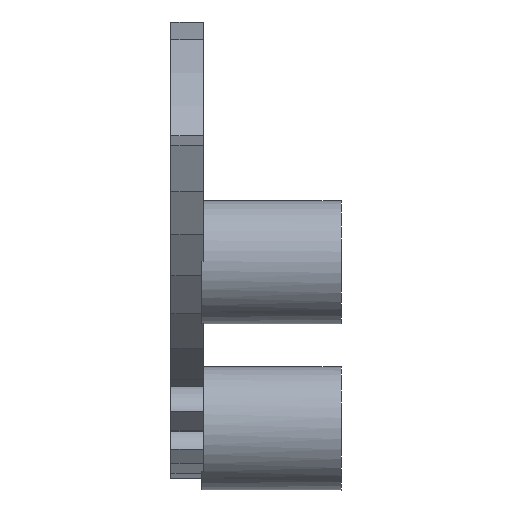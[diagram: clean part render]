
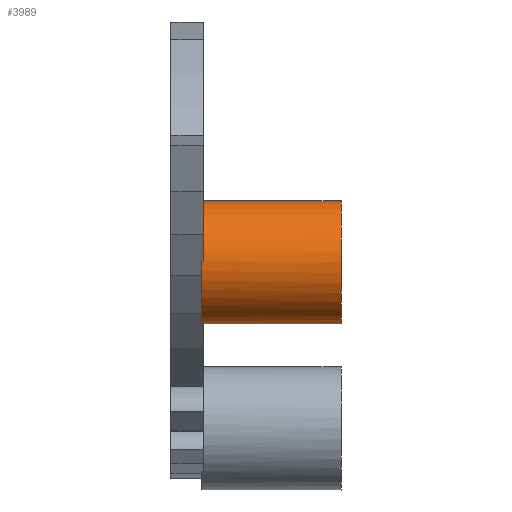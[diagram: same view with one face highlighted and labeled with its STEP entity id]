
A CAD part, front view. The second image highlights one B-rep face of the part: STEP entity #3989.
In plain terms, the highlighted cylindrical face has radius 3.8 mm (diameter 7.6 mm), a full revolution.
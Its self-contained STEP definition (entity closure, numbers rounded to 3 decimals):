
#100 = PLANE('',#101);
#101 = AXIS2_PLACEMENT_3D('',#102,#103,#104);
#102 = CARTESIAN_POINT('',(54.,-59.387,-74.279));
#103 = DIRECTION('',(1.,0.,0.));
#104 = DIRECTION('',(-0.,0.,1.));
#315 = PLANE('',#316);
#316 = AXIS2_PLACEMENT_3D('',#317,#318,#319);
#317 = CARTESIAN_POINT('',(52.,-77.03,-70.876));
#318 = DIRECTION('',(-0.,0.822,0.57));
#319 = DIRECTION('',(0.,0.57,-0.822));
#371 = PLANE('',#372);
#372 = AXIS2_PLACEMENT_3D('',#373,#374,#375);
#373 = CARTESIAN_POINT('',(52.,-73.296,-75.742));
#374 = DIRECTION('',(-0.,0.698,0.716));
#375 = DIRECTION('',(0.,0.716,-0.698));
#1612 = VERTEX_POINT('',#1613);
#1613 = CARTESIAN_POINT('',(54.,-75.907,-72.494));
#1634 = EDGE_CURVE('',#1635,#1612,#1637,.T.);
#1635 = VERTEX_POINT('',#1636);
#1636 = CARTESIAN_POINT('',(54.,-72.108,-68.759));
#1637 = SURFACE_CURVE('',#1638,(#1643,#1650),.PCURVE_S1.);
#1638 = CIRCLE('',#1639,3.8);
#1639 = AXIS2_PLACEMENT_3D('',#1640,#1641,#1642);
#1640 = CARTESIAN_POINT('',(54.,-72.108,-72.559));
#1641 = DIRECTION('',(1.,0.,0.));
#1642 = DIRECTION('',(-0.,0.,1.));
#1643 = PCURVE('',#100,#1644);
#1644 = DEFINITIONAL_REPRESENTATION('',(#1645),#1649);
#1645 = CIRCLE('',#1646,3.8);
#1646 = AXIS2_PLACEMENT_2D('',#1647,#1648);
#1647 = CARTESIAN_POINT('',(1.72,12.721));
#1648 = DIRECTION('',(1.,0.));
#1649 = ( GEOMETRIC_REPRESENTATION_CONTEXT(2) 
PARAMETRIC_REPRESENTATION_CONTEXT() REPRESENTATION_CONTEXT('2D SPACE',''
  ) );
#1650 = PCURVE('',#1651,#1656);
#1651 = CYLINDRICAL_SURFACE('',#1652,3.8);
#1652 = AXIS2_PLACEMENT_3D('',#1653,#1654,#1655);
#1653 = CARTESIAN_POINT('',(53.9,-72.108,-72.559));
#1654 = DIRECTION('',(1.,0.,0.));
#1655 = DIRECTION('',(-0.,0.,1.));
#1656 = DEFINITIONAL_REPRESENTATION('',(#1657),#1661);
#1657 = LINE('',#1658,#1659);
#1658 = CARTESIAN_POINT('',(0.,0.1));
#1659 = VECTOR('',#1660,1.);
#1660 = DIRECTION('',(1.,0.));
#1661 = ( GEOMETRIC_REPRESENTATION_CONTEXT(2) 
PARAMETRIC_REPRESENTATION_CONTEXT() REPRESENTATION_CONTEXT('2D SPACE',''
  ) );
#1663 = EDGE_CURVE('',#1664,#1635,#1666,.T.);
#1664 = VERTEX_POINT('',#1665);
#1665 = CARTESIAN_POINT('',(54.,-72.712,-76.311));
#1666 = SURFACE_CURVE('',#1667,(#1672,#1679),.PCURVE_S1.);
#1667 = CIRCLE('',#1668,3.8);
#1668 = AXIS2_PLACEMENT_3D('',#1669,#1670,#1671);
#1669 = CARTESIAN_POINT('',(54.,-72.108,-72.559));
#1670 = DIRECTION('',(1.,0.,0.));
#1671 = DIRECTION('',(-0.,0.,1.));
#1672 = PCURVE('',#100,#1673);
#1673 = DEFINITIONAL_REPRESENTATION('',(#1674),#1678);
#1674 = CIRCLE('',#1675,3.8);
#1675 = AXIS2_PLACEMENT_2D('',#1676,#1677);
#1676 = CARTESIAN_POINT('',(1.72,12.721));
#1677 = DIRECTION('',(1.,0.));
#1678 = ( GEOMETRIC_REPRESENTATION_CONTEXT(2) 
PARAMETRIC_REPRESENTATION_CONTEXT() REPRESENTATION_CONTEXT('2D SPACE',''
  ) );
#1679 = PCURVE('',#1651,#1680);
#1680 = DEFINITIONAL_REPRESENTATION('',(#1681),#1685);
#1681 = LINE('',#1682,#1683);
#1682 = CARTESIAN_POINT('',(0.,0.1));
#1683 = VECTOR('',#1684,1.);
#1684 = DIRECTION('',(1.,0.));
#1685 = ( GEOMETRIC_REPRESENTATION_CONTEXT(2) 
PARAMETRIC_REPRESENTATION_CONTEXT() REPRESENTATION_CONTEXT('2D SPACE',''
  ) );
#2677 = EDGE_CURVE('',#2678,#1612,#2680,.T.);
#2678 = VERTEX_POINT('',#2679);
#2679 = CARTESIAN_POINT('',(53.9,-75.907,-72.494));
#2680 = SURFACE_CURVE('',#2681,(#2685,#2691),.PCURVE_S1.);
#2681 = LINE('',#2682,#2683);
#2682 = CARTESIAN_POINT('',(53.9,-75.907,-72.494));
#2683 = VECTOR('',#2684,1.);
#2684 = DIRECTION('',(1.,0.,0.));
#2685 = PCURVE('',#315,#2686);
#2686 = DEFINITIONAL_REPRESENTATION('',(#2687),#2690);
#2687 = B_SPLINE_CURVE_WITH_KNOTS('',1,(#2688,#2689),.UNSPECIFIED.,.F.,
  .F.,(2,2),(0.,0.3),.PIECEWISE_BEZIER_KNOTS.);
#2688 = CARTESIAN_POINT('',(1.97,-1.9));
#2689 = CARTESIAN_POINT('',(1.97,-2.2));
#2690 = ( GEOMETRIC_REPRESENTATION_CONTEXT(2) 
PARAMETRIC_REPRESENTATION_CONTEXT() REPRESENTATION_CONTEXT('2D SPACE',''
  ) );
#2691 = PCURVE('',#1651,#2692);
#2692 = DEFINITIONAL_REPRESENTATION('',(#2693),#2696);
#2693 = B_SPLINE_CURVE_WITH_KNOTS('',1,(#2694,#2695),.UNSPECIFIED.,.F.,
  .F.,(2,2),(0.,0.3),.PIECEWISE_BEZIER_KNOTS.);
#2694 = CARTESIAN_POINT('',(1.554,0.));
#2695 = CARTESIAN_POINT('',(1.554,0.3));
#2696 = ( GEOMETRIC_REPRESENTATION_CONTEXT(2) 
PARAMETRIC_REPRESENTATION_CONTEXT() REPRESENTATION_CONTEXT('2D SPACE',''
  ) );
#2713 = PLANE('',#2714);
#2714 = AXIS2_PLACEMENT_3D('',#2715,#2716,#2717);
#2715 = CARTESIAN_POINT('',(53.9,-72.108,-72.559));
#2716 = DIRECTION('',(1.,0.,0.));
#2717 = DIRECTION('',(-0.,0.,1.));
#2798 = VERTEX_POINT('',#2799);
#2799 = CARTESIAN_POINT('',(53.9,-72.712,-76.311));
#2818 = EDGE_CURVE('',#2798,#1664,#2819,.T.);
#2819 = SURFACE_CURVE('',#2820,(#2824,#2830),.PCURVE_S1.);
#2820 = LINE('',#2821,#2822);
#2821 = CARTESIAN_POINT('',(53.9,-72.712,-76.311));
#2822 = VECTOR('',#2823,1.);
#2823 = DIRECTION('',(1.,0.,0.));
#2824 = PCURVE('',#371,#2825);
#2825 = DEFINITIONAL_REPRESENTATION('',(#2826),#2829);
#2826 = B_SPLINE_CURVE_WITH_KNOTS('',1,(#2827,#2828),.UNSPECIFIED.,.F.,
  .F.,(2,2),(0.,0.3),.PIECEWISE_BEZIER_KNOTS.);
#2827 = CARTESIAN_POINT('',(0.815,-1.9));
#2828 = CARTESIAN_POINT('',(0.815,-2.2));
#2829 = ( GEOMETRIC_REPRESENTATION_CONTEXT(2) 
PARAMETRIC_REPRESENTATION_CONTEXT() REPRESENTATION_CONTEXT('2D SPACE',''
  ) );
#2830 = PCURVE('',#1651,#2831);
#2831 = DEFINITIONAL_REPRESENTATION('',(#2832),#2835);
#2832 = B_SPLINE_CURVE_WITH_KNOTS('',1,(#2833,#2834),.UNSPECIFIED.,.F.,
  .F.,(2,2),(0.,0.3),.PIECEWISE_BEZIER_KNOTS.);
#2833 = CARTESIAN_POINT('',(2.982,0.));
#2834 = CARTESIAN_POINT('',(2.982,0.3));
#2835 = ( GEOMETRIC_REPRESENTATION_CONTEXT(2) 
PARAMETRIC_REPRESENTATION_CONTEXT() REPRESENTATION_CONTEXT('2D SPACE',''
  ) );
#3989 = ADVANCED_FACE('',(#3990),#1651,.T.);
#3990 = FACE_BOUND('',#3991,.T.);
#3991 = EDGE_LOOP('',(#3992,#4015,#4042,#4043,#4044,#4045,#4067,#4068));
#3992 = ORIENTED_EDGE('',*,*,#3993,.T.);
#3993 = EDGE_CURVE('',#1635,#3994,#3996,.T.);
#3994 = VERTEX_POINT('',#3995);
#3995 = CARTESIAN_POINT('',(62.5,-72.108,-68.759));
#3996 = SEAM_CURVE('',#3997,(#4001,#4008),.PCURVE_S1.);
#3997 = LINE('',#3998,#3999);
#3998 = CARTESIAN_POINT('',(53.9,-72.108,-68.759));
#3999 = VECTOR('',#4000,1.);
#4000 = DIRECTION('',(1.,0.,0.));
#4001 = PCURVE('',#1651,#4002);
#4002 = DEFINITIONAL_REPRESENTATION('',(#4003),#4007);
#4003 = LINE('',#4004,#4005);
#4004 = CARTESIAN_POINT('',(6.283,-0.));
#4005 = VECTOR('',#4006,1.);
#4006 = DIRECTION('',(0.,1.));
#4007 = ( GEOMETRIC_REPRESENTATION_CONTEXT(2) 
PARAMETRIC_REPRESENTATION_CONTEXT() REPRESENTATION_CONTEXT('2D SPACE',''
  ) );
#4008 = PCURVE('',#1651,#4009);
#4009 = DEFINITIONAL_REPRESENTATION('',(#4010),#4014);
#4010 = LINE('',#4011,#4012);
#4011 = CARTESIAN_POINT('',(0.,-0.));
#4012 = VECTOR('',#4013,1.);
#4013 = DIRECTION('',(0.,1.));
#4014 = ( GEOMETRIC_REPRESENTATION_CONTEXT(2) 
PARAMETRIC_REPRESENTATION_CONTEXT() REPRESENTATION_CONTEXT('2D SPACE',''
  ) );
#4015 = ORIENTED_EDGE('',*,*,#4016,.F.);
#4016 = EDGE_CURVE('',#3994,#3994,#4017,.T.);
#4017 = SURFACE_CURVE('',#4018,(#4023,#4030),.PCURVE_S1.);
#4018 = CIRCLE('',#4019,3.8);
#4019 = AXIS2_PLACEMENT_3D('',#4020,#4021,#4022);
#4020 = CARTESIAN_POINT('',(62.5,-72.108,-72.559));
#4021 = DIRECTION('',(1.,0.,0.));
#4022 = DIRECTION('',(-0.,0.,1.));
#4023 = PCURVE('',#1651,#4024);
#4024 = DEFINITIONAL_REPRESENTATION('',(#4025),#4029);
#4025 = LINE('',#4026,#4027);
#4026 = CARTESIAN_POINT('',(0.,8.6));
#4027 = VECTOR('',#4028,1.);
#4028 = DIRECTION('',(1.,0.));
#4029 = ( GEOMETRIC_REPRESENTATION_CONTEXT(2) 
PARAMETRIC_REPRESENTATION_CONTEXT() REPRESENTATION_CONTEXT('2D SPACE',''
  ) );
#4030 = PCURVE('',#4031,#4036);
#4031 = PLANE('',#4032);
#4032 = AXIS2_PLACEMENT_3D('',#4033,#4034,#4035);
#4033 = CARTESIAN_POINT('',(62.5,-72.108,-72.559));
#4034 = DIRECTION('',(1.,0.,0.));
#4035 = DIRECTION('',(-0.,0.,1.));
#4036 = DEFINITIONAL_REPRESENTATION('',(#4037),#4041);
#4037 = CIRCLE('',#4038,3.8);
#4038 = AXIS2_PLACEMENT_2D('',#4039,#4040);
#4039 = CARTESIAN_POINT('',(0.,0.));
#4040 = DIRECTION('',(1.,0.));
#4041 = ( GEOMETRIC_REPRESENTATION_CONTEXT(2) 
PARAMETRIC_REPRESENTATION_CONTEXT() REPRESENTATION_CONTEXT('2D SPACE',''
  ) );
#4042 = ORIENTED_EDGE('',*,*,#3993,.F.);
#4043 = ORIENTED_EDGE('',*,*,#1634,.T.);
#4044 = ORIENTED_EDGE('',*,*,#2677,.F.);
#4045 = ORIENTED_EDGE('',*,*,#4046,.T.);
#4046 = EDGE_CURVE('',#2678,#2798,#4047,.T.);
#4047 = SURFACE_CURVE('',#4048,(#4053,#4060),.PCURVE_S1.);
#4048 = CIRCLE('',#4049,3.8);
#4049 = AXIS2_PLACEMENT_3D('',#4050,#4051,#4052);
#4050 = CARTESIAN_POINT('',(53.9,-72.108,-72.559));
#4051 = DIRECTION('',(1.,0.,0.));
#4052 = DIRECTION('',(-0.,0.,1.));
#4053 = PCURVE('',#1651,#4054);
#4054 = DEFINITIONAL_REPRESENTATION('',(#4055),#4059);
#4055 = LINE('',#4056,#4057);
#4056 = CARTESIAN_POINT('',(0.,0.));
#4057 = VECTOR('',#4058,1.);
#4058 = DIRECTION('',(1.,0.));
#4059 = ( GEOMETRIC_REPRESENTATION_CONTEXT(2) 
PARAMETRIC_REPRESENTATION_CONTEXT() REPRESENTATION_CONTEXT('2D SPACE',''
  ) );
#4060 = PCURVE('',#2713,#4061);
#4061 = DEFINITIONAL_REPRESENTATION('',(#4062),#4066);
#4062 = CIRCLE('',#4063,3.8);
#4063 = AXIS2_PLACEMENT_2D('',#4064,#4065);
#4064 = CARTESIAN_POINT('',(0.,0.));
#4065 = DIRECTION('',(1.,0.));
#4066 = ( GEOMETRIC_REPRESENTATION_CONTEXT(2) 
PARAMETRIC_REPRESENTATION_CONTEXT() REPRESENTATION_CONTEXT('2D SPACE',''
  ) );
#4067 = ORIENTED_EDGE('',*,*,#2818,.T.);
#4068 = ORIENTED_EDGE('',*,*,#1663,.T.);
